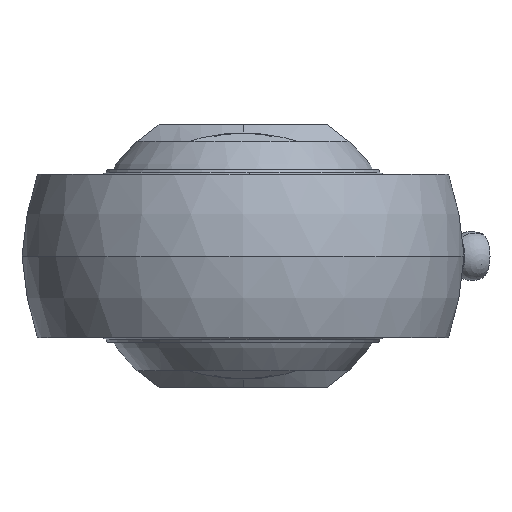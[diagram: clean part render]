
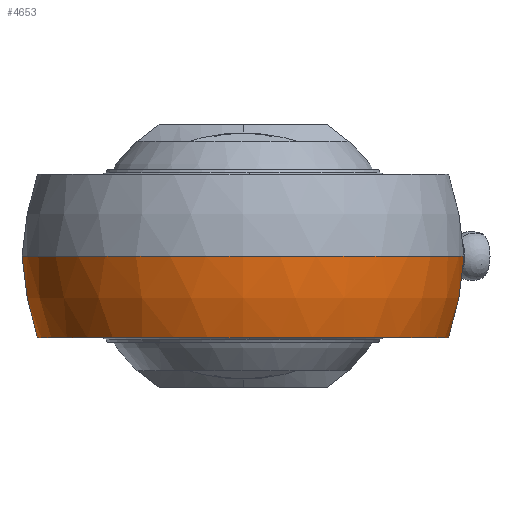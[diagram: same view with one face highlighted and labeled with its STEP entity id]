
A CAD part, left-side view. The second image highlights one B-rep face of the part: STEP entity #4653.
In plain terms, the highlighted spherical face has radius 27 mm.
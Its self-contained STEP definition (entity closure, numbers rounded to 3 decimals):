
#614 = VERTEX_POINT ( 'NONE', #2338 ) ;
#615 = EDGE_CURVE ( 'NONE', #616, #3806, #2371, .T. ) ;
#616 = VERTEX_POINT ( 'NONE', #2367 ) ;
#617 = ORIENTED_EDGE ( 'NONE', *, *, #615, .T. ) ;
#618 = ORIENTED_EDGE ( 'NONE', *, *, #619, .T. ) ;
#619 = EDGE_CURVE ( 'NONE', #614, #616, #2365, .T. ) ;
#620 = EDGE_CURVE ( 'NONE', #614, #3508, #2360, .T. ) ;
#621 = ORIENTED_EDGE ( 'NONE', *, *, #620, .F. ) ;
#2337 = CARTESIAN_POINT ( 'NONE',  ( 0., 0., -10. ) ) ;
#2338 = CARTESIAN_POINT ( 'NONE',  ( 11.755, 24.307, 0. ) ) ;
#2357 = DIRECTION ( 'NONE',  ( 1., 0., 0. ) ) ;
#2358 = DIRECTION ( 'NONE',  ( 0., 0., 1. ) ) ;
#2359 = AXIS2_PLACEMENT_3D ( 'NONE', #2366, #2358, #2357 ) ;
#2360 = CIRCLE ( 'NONE', #2359, 27. ) ;
#2361 = DIRECTION ( 'NONE',  ( 0., 0., 1. ) ) ;
#2362 = DIRECTION ( 'NONE',  ( -1., 0., 0. ) ) ;
#2363 = CARTESIAN_POINT ( 'NONE',  ( 11.755, 0., 0. ) ) ;
#2364 = AXIS2_PLACEMENT_3D ( 'NONE', #2363, #2362, #2361 ) ;
#2365 = CIRCLE ( 'NONE', #2364, 24.307 ) ;
#2366 = CARTESIAN_POINT ( 'NONE',  ( 0., 0., 0. ) ) ;
#2367 = CARTESIAN_POINT ( 'NONE',  ( 11.755, 22.155, -10. ) ) ;
#2368 = DIRECTION ( 'NONE',  ( 1., 0., 0. ) ) ;
#2369 = DIRECTION ( 'NONE',  ( 0., 0., 1. ) ) ;
#2370 = AXIS2_PLACEMENT_3D ( 'NONE', #2337, #2369, #2368 ) ;
#2371 = CIRCLE ( 'NONE', #2370, 25.08 ) ;
#3306 = EDGE_CURVE ( 'NONE', #3862, #3508, #3639, .T. ) ;
#3508 = VERTEX_POINT ( 'NONE', #3631 ) ;
#3631 = CARTESIAN_POINT ( 'NONE',  ( -27., 0., 0. ) ) ;
#3635 = DIRECTION ( 'NONE',  ( 0., 1., 0. ) ) ;
#3636 = DIRECTION ( 'NONE',  ( 0., 0., -1. ) ) ;
#3637 = CARTESIAN_POINT ( 'NONE',  ( 0., 0., 0. ) ) ;
#3638 = AXIS2_PLACEMENT_3D ( 'NONE', #3637, #3636, #3635 ) ;
#3639 = CIRCLE ( 'NONE', #3638, 27. ) ;
#3685 = CARTESIAN_POINT ( 'NONE',  ( 11.755, -24.307, 0. ) ) ;
#3686 = CARTESIAN_POINT ( 'NONE',  ( 11.755, -22.155, -10. ) ) ;
#3709 = DIRECTION ( 'NONE',  ( 0., 1., 0. ) ) ;
#3710 = DIRECTION ( 'NONE',  ( 0., 0., -1. ) ) ;
#3711 = AXIS2_PLACEMENT_3D ( 'NONE', #3713, #3710, #3709 ) ;
#3713 = CARTESIAN_POINT ( 'NONE',  ( 0., 0., 0. ) ) ;
#3714 = SPHERICAL_SURFACE ( 'NONE', #3711, 27. ) ;
#3715 = FACE_OUTER_BOUND ( 'NONE', #4014, .T. ) ;
#3716 = DIRECTION ( 'NONE',  ( 0., 0., 1. ) ) ;
#3717 = DIRECTION ( 'NONE',  ( -1., 0., 0. ) ) ;
#3718 = CARTESIAN_POINT ( 'NONE',  ( 11.755, 0., 0. ) ) ;
#3719 = AXIS2_PLACEMENT_3D ( 'NONE', #3718, #3717, #3716 ) ;
#3720 = CIRCLE ( 'NONE', #3719, 24.307 ) ;
#3721 = ORIENTED_EDGE ( 'NONE', *, *, #3306, .T. ) ;
#3806 = VERTEX_POINT ( 'NONE', #3686 ) ;
#3862 = VERTEX_POINT ( 'NONE', #3685 ) ;
#4014 = EDGE_LOOP ( 'NONE', ( #4643, #3721, #621, #618, #617 ) ) ;
#4643 = ORIENTED_EDGE ( 'NONE', *, *, #4652, .T. ) ;
#4652 = EDGE_CURVE ( 'NONE', #3806, #3862, #3720, .T. ) ;
#4653 = ADVANCED_FACE ( 'NONE', ( #3715 ), #3714, .T. ) ;
